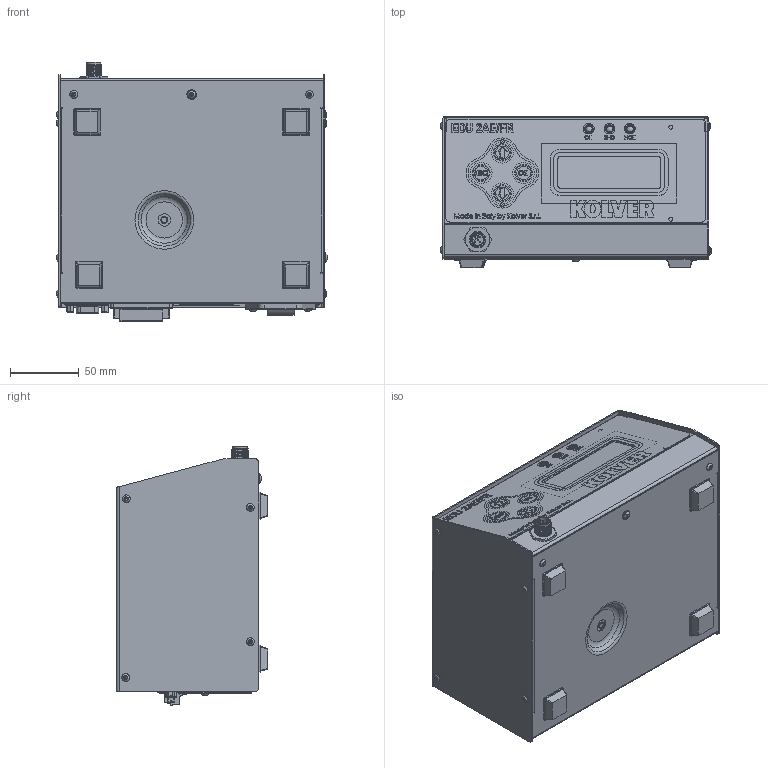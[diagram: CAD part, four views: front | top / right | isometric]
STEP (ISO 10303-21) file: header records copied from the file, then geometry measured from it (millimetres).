
FILE_DESCRIPTION (( 'STEP AP214' ), '1' );
FILE_NAME ('Assem1 EDU 2AE_FR.STEP', '2025-10-21T09:01:40', ( '' ), ( '' ), 'SwSTEP 2.0', 'SolidWorks 2024', '' );
FILE_SCHEMA (( 'AUTOMOTIVE_DESIGN' ));
Length unit declared in the file: millimetre
Products named in the file (1): Assem1 EDU 2AE_FR
Bounding box: 197.76 x 110.37 x 189.2 mm (x, y, z)
Surface area: 255810.2 mm2 (no closed solid volume)
Topology: 0 solids, 122 shells, 1383 faces, 5479 edges, 4037 vertices
Faces by surface type: plane 825, cylinder 349, bspline 105, cone 54, torus 28, sphere 22
Full cylindrical faces by diameter (mm): 0.457 x1, 0.8 x3, 1 x13, 2.5 x2, 2.9 x8, 3 x5, 3.9 x2, 4.5 x2, 5 x8, 5.7 x17, 6 x6, 7 x2, 8 x3, 8.3 x1, 9 x1, 9.4 x1, 9.5 x1, 10 x1, 10.5 x1, 12 x4, 13 x4, 16 x4, 42 x1, 89.6 x1
Entity records: 83184 total; most frequent: CARTESIAN_POINT 26293, DIRECTION 8045, ORIENTED_EDGE 7579, EDGE_CURVE 5261, VERTEX_POINT 3977, VECTOR 3349, LINE 3349, AXIS2_PLACEMENT_3D 2348
